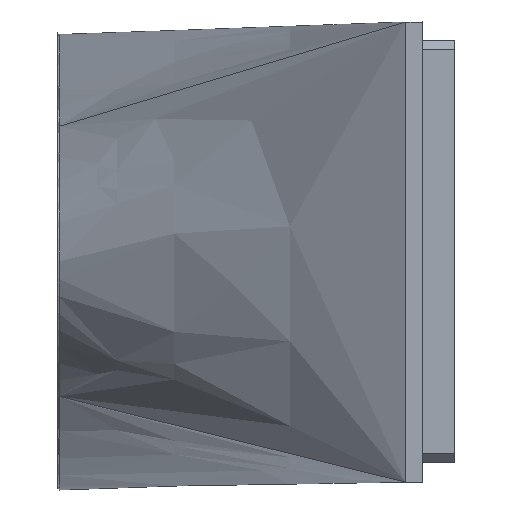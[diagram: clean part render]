
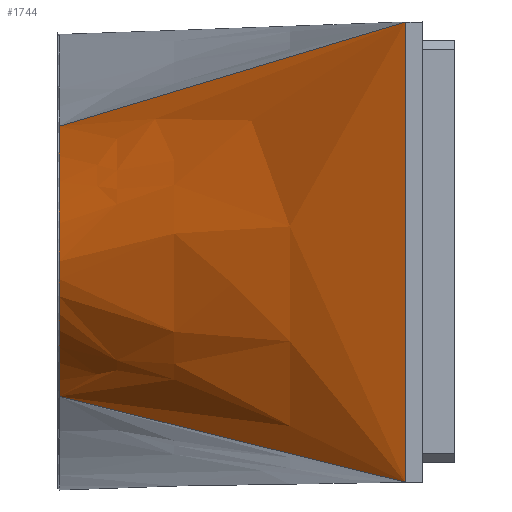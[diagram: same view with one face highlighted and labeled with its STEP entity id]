
A CAD part, front view. The second image highlights one B-rep face of the part: STEP entity #1744.
In plain terms, the highlighted free-form (B-spline) face has degree [3, 3] with [7, 4] control points.
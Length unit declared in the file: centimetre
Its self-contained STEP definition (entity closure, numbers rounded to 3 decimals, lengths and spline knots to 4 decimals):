
#25=ELLIPSE($,#1799,8.75,4.);
#26=ELLIPSE($,#1800,8.75,4.);
#178=FACE_OUTER_BOUND($,#293,.T.);
#293=EDGE_LOOP($,(#1570,#1571,#1572,#1573,#1574));
#365=LINE($,#3798,#477);
#404=LINE($,#3979,#516);
#407=LINE($,#4054,#519);
#477=VECTOR($,#1911,8.0513);
#516=VECTOR($,#2002,8.0404);
#519=VECTOR($,#2013,7.973);
#778=VERTEX_POINT($,#3796);
#779=VERTEX_POINT($,#3797);
#817=VERTEX_POINT($,#3977);
#819=VERTEX_POINT($,#4048);
#822=VERTEX_POINT($,#4083);
#1015=EDGE_CURVE($,#778,#779,#365,.T.);
#1069=EDGE_CURVE($,#817,#779,#404,.T.);
#1076=EDGE_CURVE($,#819,#778,#407,.T.);
#1077=EDGE_CURVE($,#822,#819,#25,.T.);
#1078=EDGE_CURVE($,#817,#822,#26,.T.);
#1570=ORIENTED_EDGE($,*,*,#1077,.T.);
#1571=ORIENTED_EDGE($,*,*,#1076,.T.);
#1572=ORIENTED_EDGE($,*,*,#1015,.T.);
#1573=ORIENTED_EDGE($,*,*,#1069,.F.);
#1574=ORIENTED_EDGE($,*,*,#1078,.T.);
#1652=B_SPLINE_SURFACE_WITH_KNOTS($,3,3,((#4055,#4056,#4057,#4058),(#4059,
#4060,#4061,#4062),(#4063,#4064,#4065,#4066),(#4067,#4068,#4069,#4070),
(#4071,#4072,#4073,#4074),(#4075,#4076,#4077,#4078),(#4079,#4080,#4081,
#4082)),.UNSPECIFIED.,.F.,.F.,.F.,(4,1,1,1,4),(4,4),(0.,0.2857,
0.5714,0.8571,1.),(0.,1.),.UNSPECIFIED.);
#1744=ADVANCED_FACE($,(#178),#1652,.F.);
#1799=AXIS2_PLACEMENT_3D($,#4084,#2014,#2015);
#1800=AXIS2_PLACEMENT_3D($,#4085,#2016,#2017);
#1911=DIRECTION($,(0.,0.,1.));
#2002=DIRECTION($,(0.753,-0.617,0.227));
#2013=DIRECTION($,(0.76,-0.622,-0.188));
#2014=DIRECTION('center_axis',(1.,0.,0.));
#2015=DIRECTION('ref_axis',(0.,1.,0.));
#2016=DIRECTION('center_axis',(1.,0.,0.));
#2017=DIRECTION('ref_axis',(0.,1.,0.));
#3796=CARTESIAN_POINT('',(-18.6561,2.1219,1.85));
#3797=CARTESIAN_POINT('',(-18.6561,2.1219,9.9013));
#3798=CARTESIAN_POINT($,(-18.6561,2.1219,9.9013));
#3977=CARTESIAN_POINT('',(-24.7138,7.0843,8.0774));
#3979=CARTESIAN_POINT($,(-24.7138,7.0843,8.0774));
#4048=CARTESIAN_POINT('',(-24.7138,7.0843,3.3495));
#4054=CARTESIAN_POINT($,(-24.7138,7.0843,3.3495));
#4055=CARTESIAN_POINT('Ctrl Pts',(-24.7138,7.0843,3.3495));
#4056=CARTESIAN_POINT('Ctrl Pts',(-22.6945,5.4302,2.8497));
#4057=CARTESIAN_POINT('Ctrl Pts',(-20.6753,3.7761,2.3498));
#4058=CARTESIAN_POINT('Ctrl Pts',(-18.6561,2.1219,1.85));
#4059=CARTESIAN_POINT('Ctrl Pts',(-24.7138,6.4615,3.7381));
#4060=CARTESIAN_POINT('Ctrl Pts',(-22.6945,5.0151,3.3644));
#4061=CARTESIAN_POINT('Ctrl Pts',(-20.6753,3.5684,2.9905));
#4062=CARTESIAN_POINT('Ctrl Pts',(-18.6561,2.1219,2.6168));
#4063=CARTESIAN_POINT('Ctrl Pts',(-24.7138,5.5266,4.6192));
#4064=CARTESIAN_POINT('Ctrl Pts',(-22.6945,4.3918,4.4629));
#4065=CARTESIAN_POINT('Ctrl Pts',(-20.6753,3.2568,4.3066));
#4066=CARTESIAN_POINT('Ctrl Pts',(-18.6561,2.1219,4.1504));
#4067=CARTESIAN_POINT('Ctrl Pts',(-24.7138,5.2365,6.0822));
#4068=CARTESIAN_POINT('Ctrl Pts',(-22.6945,4.1984,6.2051));
#4069=CARTESIAN_POINT('Ctrl Pts',(-20.6753,3.1601,6.3279));
#4070=CARTESIAN_POINT('Ctrl Pts',(-18.6561,2.1219,6.4507));
#4071=CARTESIAN_POINT('Ctrl Pts',(-24.7138,5.9535,7.2616));
#4072=CARTESIAN_POINT('Ctrl Pts',(-22.6945,4.6764,7.6303));
#4073=CARTESIAN_POINT('Ctrl Pts',(-20.6753,3.3991,7.999));
#4074=CARTESIAN_POINT('Ctrl Pts',(-18.6561,2.1219,8.3677));
#4075=CARTESIAN_POINT('Ctrl Pts',(-24.7138,6.7729,7.8831));
#4076=CARTESIAN_POINT('Ctrl Pts',(-22.6945,5.2225,8.428));
#4077=CARTESIAN_POINT('Ctrl Pts',(-20.6753,3.6724,8.9729));
#4078=CARTESIAN_POINT('Ctrl Pts',(-18.6561,2.1219,9.5179));
#4079=CARTESIAN_POINT('Ctrl Pts',(-24.7138,7.0843,8.0774));
#4080=CARTESIAN_POINT('Ctrl Pts',(-22.6945,5.4302,8.6853));
#4081=CARTESIAN_POINT('Ctrl Pts',(-20.6753,3.7761,9.2933));
#4082=CARTESIAN_POINT('Ctrl Pts',(-18.6561,2.1219,9.9013));
#4083=CARTESIAN_POINT('',(-24.7138,5.3928,5.7134));
#4084=CARTESIAN_POINT('Origin',(-24.7138,14.1428,5.7134));
#4085=CARTESIAN_POINT('Origin',(-24.7138,14.1428,5.7134));
